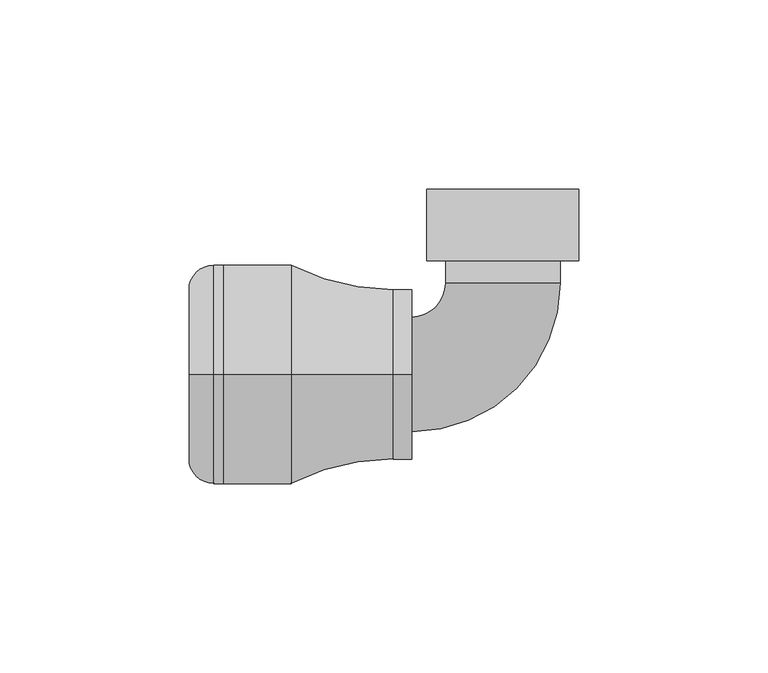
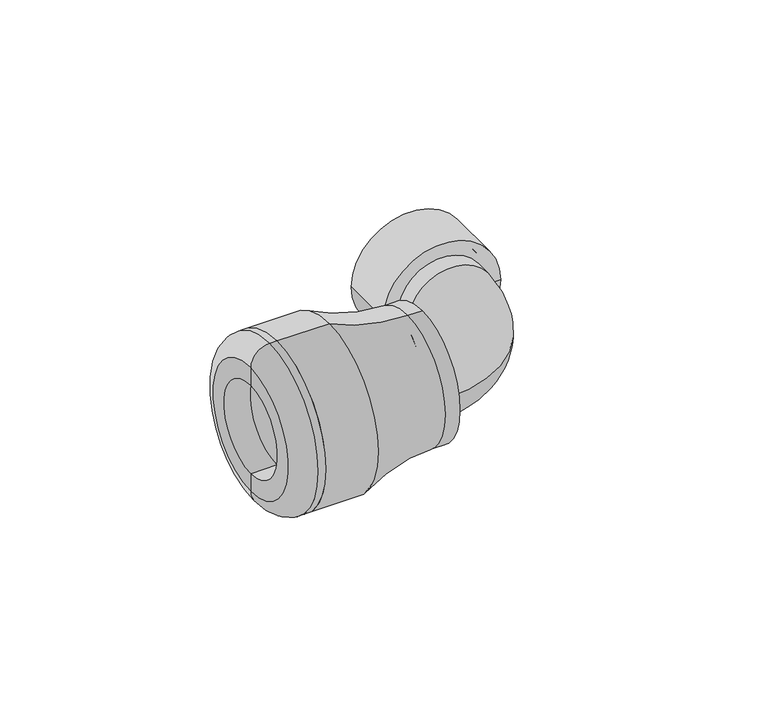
"""IFC4 building model written with IfcOpenShell, lengths in millimetres: pipe fitting geometry, Plumbing_Pipe-Fittings_Plasson_Elbow-90-with-Threaded-Female-Offtake_1015 : Plumbing_Pipe-Fittings_Plasson_Elbow-90-with-Threaded-Female-Offtake_1015."""

from ifc_helpers import new_model, si_unit, point, frame, origin, place, context, project, spatial, polyline, circle_curve, ellipse_curve, trimmed, source, transform, mapped, element, save
from ifc_brep_helpers import plane_surface, cylinder_surface, revolved_surface, advanced_brep


def pipe_fitting_24c858a7(model_context):
    return source(origin(), model_context, "Body", "AdvancedBrep", [
        advanced_brep(
        [(0.0, 49.0, -17.15), (0.0, 49.0, 17.15), (0.0, 49.0, 15.15), (0.0, 49.0, -15.15), (0.0, 33.0, -15.15), (0.0, 33.0, 15.15), (0.0, 33.0, 17.15), (0.0, 33.0, -17.15)],
        [
            (0, 1, circle_curve(frame((0.0, 49.0, 0.0), z_axis=(0.0, 1.0, 0.0), x_axis=(0.0, 0.0, 1.0)), 17.15)),
            (1, 2),
            (2, 3, circle_curve(frame((0.0, 49.0, 0.0), z_axis=(0.0, -1.0, 0.0), x_axis=(0.0, 0.0, 1.0)), 15.15)),
            (3, 0),
            (1, 0, circle_curve(frame((0.0, 49.0, 0.0), z_axis=(0.0, 1.0, 0.0), x_axis=(0.0, 0.0, 1.0)), 17.15)),
            (3, 2, circle_curve(frame((0.0, 49.0, 0.0), z_axis=(0.0, -1.0, 0.0), x_axis=(0.0, 0.0, 1.0)), 15.15)),
            (4, 5, circle_curve(frame((0.0, 33.0, 0.0), z_axis=(0.0, 1.0, 0.0), x_axis=(0.0, 0.0, 1.0)), 15.15)),
            (5, 6),
            (6, 7, circle_curve(frame((0.0, 33.0, 0.0), z_axis=(0.0, -1.0, 0.0), x_axis=(0.0, 0.0, 1.0)), 17.15)),
            (7, 4),
            (5, 4, circle_curve(frame((0.0, 33.0, 0.0), z_axis=(0.0, 1.0, 0.0), x_axis=(0.0, 0.0, 1.0)), 15.15)),
            (7, 6, circle_curve(frame((0.0, 33.0, 0.0), z_axis=(0.0, -1.0, 0.0), x_axis=(0.0, 0.0, 1.0)), 17.15)),
            (6, 1),
            (0, 7),
            (2, 5),
            (4, 3),
        ],
        [
            plane_surface(frame((0.0, 49.0, 0.0), z_axis=(0.0, 1.0, 0.0), x_axis=(0.0, 0.0, 1.0))),
            plane_surface(frame((0.0, 33.0, 0.0), z_axis=(0.0, -1.0, 0.0), x_axis=(0.0, 0.0, 1.0))),
            cylinder_surface(frame((0.0, 43.3333333, 0.0), z_axis=(0.0, -1.0, 0.0), x_axis=(0.0, 0.0, 1.0)), 17.15),
            revolved_surface(polyline([(0.0, 33.0, 15.15), (0.0, 49.0, 15.15)]), (0.0, 43.3333333, 0.0), (0.0, -1.0, 0.0)),
        ],
        [
            (0, [[1, 2, 3, 4]]),
            (0, [[5, -4, 6, -2]]),
            (1, [[7, 8, 9, 10]]),
            (1, [[11, -10, 12, -8]]),
            (2, [[-9, 13, -1, 14]]),
            (2, [[-12, -14, -5, -13]]),
            (3, [[-3, 15, -7, 16]]),
            (3, [[-6, -16, -11, -15]]),
        ],
    ),
        advanced_brep(
        [(-24.1, -15.15, 0.0), (-24.1, 15.15, 0.0), (15.15, 24.1, 0.0), (-15.15, 24.1, 0.0)],
        [
            (0, 1, circle_curve(frame((-24.1, 0.0, 0.0), z_axis=(-1.0, 0.0, 0.0), x_axis=(0.0, 1.0, 0.0)), 15.15)),
            (1, 0, circle_curve(frame((-24.1, 0.0, 0.0), z_axis=(-1.0, 0.0, 0.0), x_axis=(0.0, 1.0, 0.0)), 15.15)),
            (2, 3, circle_curve(frame((0.0, 24.1, 0.0), z_axis=(0.0, 1.0, 0.0), x_axis=(-1.0, 0.0, 0.0)), 15.15)),
            (3, 2, circle_curve(frame((0.0, 24.1, 0.0), z_axis=(0.0, 1.0, 0.0), x_axis=(-1.0, 0.0, 0.0)), 15.15)),
            (3, 1, circle_curve(frame((-24.1, 24.1, 0.0), z_axis=(0.0, 0.0, -1.0), x_axis=(0.0, -1.0, 0.0)), 8.95)),
            (0, 2, circle_curve(frame((-24.1, 24.1, 0.0), z_axis=(0.0, 0.0, 1.0), x_axis=(0.0, -1.0, 0.0)), 39.25)),
        ],
        [
            plane_surface(frame((-24.1, 0.0, 0.0), z_axis=(-1.0, 0.0, 0.0), x_axis=(0.0, 0.0, 1.0))),
            plane_surface(frame((0.0, 24.1, 0.0), z_axis=(0.0, 1.0, 0.0), x_axis=(0.0, 0.0, 1.0))),
            revolved_surface(trimmed(ellipse_curve(frame((-24.1, 0.0, 0.0), z_axis=(-1.0, 0.0, 0.0), x_axis=(0.0, 1.0, 0.0)), 15.15, 15.15), [point((-24.1, -15.15, 0.0))], [point((-24.1, 15.15, 0.0))], True, "CARTESIAN"), (-24.1, 24.1, 0.0), (0.0, 0.0, 1.0)),
            revolved_surface(trimmed(ellipse_curve(frame((-24.1, 0.0, 0.0), z_axis=(-1.0, 0.0, 0.0), x_axis=(0.0, 1.0, 0.0)), 15.15, 15.15), [point((-24.1, 15.15, 0.0))], [point((-24.1, -15.15, 0.0))], True, "CARTESIAN"), (-24.1, 24.1, 0.0), (0.0, 0.0, 1.0)),
        ],
        [
            (0, [[1, 2]]),
            (1, [[3, 4]]),
            (2, [[5, -1, 6, -4]]),
            (3, [[-6, -2, -5, -3]]),
        ],
    ),
        advanced_brep(
        [(20.15, 30.0, 0.0), (-20.15, 30.0, 0.0), (-20.15, 49.0, 0.0), (20.15, 49.0, 0.0), (17.15, 33.0, 0.0), (-17.15, 33.0, 0.0), (0.0, 33.0, 0.0), (0.0, 24.1, 0.0), (-15.15, 24.1, 0.0), (15.15, 24.1, 0.0), (-15.15, 30.0, 0.0), (15.15, 30.0, 0.0), (17.15, 49.0, 0.0), (-17.15, 49.0, 0.0)],
        [
            (0, 1, circle_curve(frame((0.0, 30.0, 0.0), z_axis=(0.0, 1.0, 0.0), x_axis=(-1.0, 0.0, 0.0)), 20.15)),
            (1, 2),
            (2, 3, circle_curve(frame((0.0, 49.0, 0.0), z_axis=(0.0, -1.0, 0.0), x_axis=(-1.0, 0.0, 0.0)), 20.15)),
            (3, 0),
            (1, 0, circle_curve(frame((0.0, 30.0, 0.0), z_axis=(0.0, 1.0, 0.0), x_axis=(-1.0, 0.0, 0.0)), 20.15)),
            (3, 2, circle_curve(frame((0.0, 49.0, 0.0), z_axis=(0.0, -1.0, 0.0), x_axis=(-1.0, 0.0, 0.0)), 20.15)),
            (4, 5, circle_curve(frame((0.0, 33.0, 0.0), z_axis=(0.0, 1.0, 0.0), x_axis=(-1.0, 0.0, 0.0)), 17.15)),
            (5, 6),
            (6, 4),
            (5, 4, circle_curve(frame((0.0, 33.0, 0.0), z_axis=(0.0, 1.0, 0.0), x_axis=(-1.0, 0.0, 0.0)), 17.15)),
            (7, 8),
            (8, 9, circle_curve(frame((0.0, 24.1, 0.0), z_axis=(0.0, -1.0, 0.0), x_axis=(-1.0, 0.0, 0.0)), 15.15)),
            (9, 7),
            (9, 8, circle_curve(frame((0.0, 24.1, 0.0), z_axis=(0.0, -1.0, 0.0), x_axis=(-1.0, 0.0, 0.0)), 15.15)),
            (8, 10),
            (10, 11, circle_curve(frame((0.0, 30.0, 0.0), z_axis=(0.0, -1.0, 0.0), x_axis=(-1.0, 0.0, 0.0)), 15.15)),
            (11, 9),
            (11, 10, circle_curve(frame((0.0, 30.0, 0.0), z_axis=(0.0, -1.0, 0.0), x_axis=(-1.0, 0.0, 0.0)), 15.15)),
            (10, 1),
            (0, 11),
            (12, 13, circle_curve(frame((0.0, 49.0, 0.0), z_axis=(0.0, 1.0, 0.0), x_axis=(-1.0, 0.0, 0.0)), 17.15)),
            (13, 5),
            (4, 12),
            (13, 12, circle_curve(frame((0.0, 49.0, 0.0), z_axis=(0.0, 1.0, 0.0), x_axis=(-1.0, 0.0, 0.0)), 17.15)),
            (2, 13),
            (12, 3),
        ],
        [
            cylinder_surface(frame((0.0, 31.25, 0.0), z_axis=(0.0, -1.0, 0.0), x_axis=(-1.0, 0.0, 0.0)), 20.15),
            plane_surface(frame((0.0, 33.0, 0.0), z_axis=(0.0, 1.0, 0.0), x_axis=(-1.0, 0.0, 0.0))),
            plane_surface(frame((0.0, 24.1, 0.0), z_axis=(0.0, -1.0, 0.0), x_axis=(-1.0, 0.0, 0.0))),
            cylinder_surface(frame((0.0, 31.25, 0.0), z_axis=(0.0, -1.0, 0.0), x_axis=(-1.0, 0.0, 0.0)), 15.15),
            plane_surface(frame((0.0, 30.0, 0.0), z_axis=(0.0, -1.0, 0.0), x_axis=(-1.0, 0.0, 0.0))),
            revolved_surface(polyline([(-17.15, 33.0, 0.0), (-17.15, 49.0, 0.0)]), (0.0, 31.25, 0.0), (0.0, -1.0, 0.0)),
            plane_surface(frame((0.0, 49.0, 0.0), z_axis=(0.0, 1.0, 0.0), x_axis=(-1.0, 0.0, 0.0))),
        ],
        [
            (0, [[1, 2, 3, 4]]),
            (0, [[5, -4, 6, -2]]),
            (1, [[7, 8, 9]]),
            (1, [[10, -9, -8]]),
            (2, [[11, 12, 13]]),
            (2, [[-13, 14, -11]]),
            (3, [[-12, 15, 16, 17]]),
            (3, [[-14, -17, 18, -15]]),
            (4, [[-16, 19, -1, 20]]),
            (4, [[-18, -20, -5, -19]]),
            (5, [[21, 22, -7, 23]]),
            (5, [[24, -23, -10, -22]]),
            (6, [[-3, 25, -21, 26]]),
            (6, [[-6, -26, -24, -25]]),
        ],
    ),
        advanced_brep(
        [(-74.0, 0.0, -29.0), (-74.0, 0.0, 29.0), (-74.0, 0.0, 16.0), (-74.0, 0.0, -16.0), (-76.5, 0.0, -29.0), (-76.5, 0.0, 29.0), (-83.0, 0.0, -22.5), (-83.0, 0.0, 22.5), (-83.0, 0.0, -16.0), (-83.0, 0.0, 16.0)],
        [
            (0, 1, circle_curve(frame((-74.0, 0.0, 0.0), z_axis=(1.0, 0.0, 0.0), x_axis=(0.0, 0.0, 1.0)), 29.0)),
            (1, 2),
            (2, 3, circle_curve(frame((-74.0, 0.0, 0.0), z_axis=(-1.0, 0.0, 0.0), x_axis=(0.0, 0.0, 1.0)), 16.0)),
            (3, 0),
            (1, 0, circle_curve(frame((-74.0, 0.0, 0.0), z_axis=(1.0, 0.0, 0.0), x_axis=(0.0, 0.0, 1.0)), 29.0)),
            (3, 2, circle_curve(frame((-74.0, 0.0, 0.0), z_axis=(-1.0, 0.0, 0.0), x_axis=(0.0, 0.0, 1.0)), 16.0)),
            (4, 5, circle_curve(frame((-76.5, 0.0, 0.0), z_axis=(1.0, 0.0, 0.0), x_axis=(0.0, 0.0, 1.0)), 29.0)),
            (5, 1),
            (0, 4),
            (5, 4, circle_curve(frame((-76.5, 0.0, 0.0), z_axis=(1.0, 0.0, 0.0), x_axis=(0.0, 0.0, 1.0)), 29.0)),
            (6, 7, circle_curve(frame((-83.0, 0.0, 0.0), z_axis=(1.0, 0.0, 0.0), x_axis=(0.0, 0.0, 1.0)), 22.5)),
            (7, 5, circle_curve(frame((-76.5, 0.0, 22.5), z_axis=(0.0, 1.0, 0.0), x_axis=(1.0, 0.0, 0.0)), 6.5)),
            (4, 6, circle_curve(frame((-76.5, 0.0, -22.5), z_axis=(0.0, 1.0, 0.0), x_axis=(1.0, 0.0, 0.0)), 6.5)),
            (7, 6, circle_curve(frame((-83.0, 0.0, 0.0), z_axis=(1.0, 0.0, 0.0), x_axis=(0.0, 0.0, 1.0)), 22.5)),
            (8, 9, circle_curve(frame((-83.0, 0.0, 0.0), z_axis=(1.0, 0.0, 0.0), x_axis=(0.0, 0.0, 1.0)), 16.0)),
            (9, 7),
            (6, 8),
            (9, 8, circle_curve(frame((-83.0, 0.0, 0.0), z_axis=(1.0, 0.0, 0.0), x_axis=(0.0, 0.0, 1.0)), 16.0)),
            (2, 9),
            (8, 3),
        ],
        [
            plane_surface(frame((-74.0, 0.0, 0.0), z_axis=(1.0, 0.0, 0.0), x_axis=(0.0, 0.0, 1.0))),
            cylinder_surface(frame((-88.0, 0.0, 0.0), z_axis=(-1.0, 0.0, 0.0), x_axis=(0.0, 0.0, 1.0)), 29.0),
            revolved_surface(trimmed(ellipse_curve(frame((-76.5, 0.0, 22.5), z_axis=(0.0, -1.0, 0.0), x_axis=(1.0, 0.0, 0.0)), 6.5, 6.5), [point((-76.5, 0.0, 29.0))], [point((-83.0, 0.0, 22.5))], True, "CARTESIAN"), (-88.0, 0.0, 0.0), (-1.0, 0.0, 0.0)),
            plane_surface(frame((-83.0, 0.0, 0.0), z_axis=(-1.0, 0.0, 0.0), x_axis=(0.0, 0.0, 1.0))),
            revolved_surface(polyline([(-83.0, 0.0, 16.0), (-74.0, 0.0, 16.0)]), (-88.0, 0.0, 0.0), (-1.0, 0.0, 0.0)),
        ],
        [
            (0, [[1, 2, 3, 4]]),
            (0, [[5, -4, 6, -2]]),
            (1, [[7, 8, -1, 9]]),
            (1, [[10, -9, -5, -8]]),
            (2, [[11, 12, -7, 13]]),
            (2, [[14, -13, -10, -12]]),
            (3, [[15, 16, -11, 17]]),
            (3, [[18, -17, -14, -16]]),
            (4, [[-3, 19, -15, 20]]),
            (4, [[-6, -20, -18, -19]]),
        ],
    ),
        advanced_brep(
        [(-74.0, 0.0, -16.0), (-74.0, 0.0, 16.0), (-74.0, 0.0, 29.0), (-74.0, 0.0, -29.0), (-29.0, 0.0, -16.0), (-29.0, 0.0, 16.0), (-29.0, 0.0, 0.0), (-56.0, 0.0, 29.0), (-56.0, 0.0, -29.0), (-24.1, 0.0, -22.5), (-24.1, 0.0, 22.5), (-24.1, 0.0, 0.0), (-29.0, 0.0, -22.5), (-29.0, 0.0, 22.5)],
        [
            (0, 1, circle_curve(frame((-74.0, 0.0, 0.0), z_axis=(1.0, 0.0, 0.0), x_axis=(0.0, 0.0, 1.0)), 16.0)),
            (1, 2),
            (2, 3, circle_curve(frame((-74.0, 0.0, 0.0), z_axis=(-1.0, 0.0, 0.0), x_axis=(0.0, 0.0, 1.0)), 29.0)),
            (3, 0),
            (1, 0, circle_curve(frame((-74.0, 0.0, 0.0), z_axis=(1.0, 0.0, 0.0), x_axis=(0.0, 0.0, 1.0)), 16.0)),
            (3, 2, circle_curve(frame((-74.0, 0.0, 0.0), z_axis=(-1.0, 0.0, 0.0), x_axis=(0.0, 0.0, 1.0)), 29.0)),
            (4, 5, circle_curve(frame((-29.0, 0.0, 0.0), z_axis=(1.0, 0.0, 0.0), x_axis=(0.0, 0.0, 1.0)), 16.0)),
            (5, 1),
            (0, 4),
            (5, 4, circle_curve(frame((-29.0, 0.0, 0.0), z_axis=(1.0, 0.0, 0.0), x_axis=(0.0, 0.0, 1.0)), 16.0)),
            (6, 5),
            (4, 6),
            (2, 7),
            (7, 8, circle_curve(frame((-56.0, 0.0, 0.0), z_axis=(-1.0, 0.0, 0.0), x_axis=(0.0, 0.0, 1.0)), 29.0)),
            (8, 3),
            (8, 7, circle_curve(frame((-56.0, 0.0, 0.0), z_axis=(-1.0, 0.0, 0.0), x_axis=(0.0, 0.0, 1.0)), 29.0)),
            (9, 10, circle_curve(frame((-24.1, 0.0, 0.0), z_axis=(1.0, 0.0, 0.0), x_axis=(0.0, 0.0, 1.0)), 22.5)),
            (10, 11),
            (11, 9),
            (10, 9, circle_curve(frame((-24.1, 0.0, 0.0), z_axis=(1.0, 0.0, 0.0), x_axis=(0.0, 0.0, 1.0)), 22.5)),
            (12, 13, circle_curve(frame((-29.0, 0.0, 0.0), z_axis=(1.0, 0.0, 0.0), x_axis=(0.0, 0.0, 1.0)), 22.5)),
            (13, 10),
            (9, 12),
            (13, 12, circle_curve(frame((-29.0, 0.0, 0.0), z_axis=(1.0, 0.0, 0.0), x_axis=(0.0, 0.0, 1.0)), 22.5)),
            (7, 13, circle_curve(frame((-29.0, 0.0, 81.8269231), z_axis=(0.0, -1.0, 0.0), x_axis=(1.0, 0.0, 0.0)), 59.3269231)),
            (12, 8, circle_curve(frame((-29.0, 0.0, -81.8269231), z_axis=(0.0, -1.0, 0.0), x_axis=(1.0, 0.0, 0.0)), 59.3269231)),
        ],
        [
            plane_surface(frame((-74.0, 0.0, 0.0), z_axis=(-1.0, 0.0, 0.0), x_axis=(0.0, 0.0, 1.0))),
            revolved_surface(polyline([(-74.0, 0.0, 16.0), (-29.0, 0.0, 16.0)]), (-74.0, 0.0, 0.0), (-1.0, 0.0, 0.0)),
            plane_surface(frame((-29.0, 0.0, 0.0), z_axis=(-1.0, 0.0, 0.0), x_axis=(0.0, 0.0, 1.0))),
            cylinder_surface(frame((-74.0, 0.0, 0.0), z_axis=(-1.0, 0.0, 0.0), x_axis=(0.0, 0.0, 1.0)), 29.0),
            plane_surface(frame((-24.1, 0.0, 0.0), z_axis=(1.0, 0.0, 0.0), x_axis=(0.0, 0.0, 1.0))),
            cylinder_surface(frame((-74.0, 0.0, 0.0), z_axis=(-1.0, 0.0, 0.0), x_axis=(0.0, 0.0, 1.0)), 22.5),
            revolved_surface(trimmed(ellipse_curve(frame((-29.0, 0.0, 81.8269231), z_axis=(0.0, 1.0, 0.0), x_axis=(1.0, 0.0, 0.0)), 59.3269231, 59.3269231), [point((-29.0, 0.0, 22.5))], [point((-56.0, 0.0, 29.0))], True, "CARTESIAN"), (-74.0, 0.0, 0.0), (-1.0, 0.0, 0.0)),
        ],
        [
            (0, [[1, 2, 3, 4]]),
            (0, [[5, -4, 6, -2]]),
            (1, [[7, 8, -1, 9]]),
            (1, [[10, -9, -5, -8]]),
            (2, [[11, -7, 12]]),
            (2, [[-12, -10, -11]]),
            (3, [[-3, 13, 14, 15]]),
            (3, [[-6, -15, 16, -13]]),
            (4, [[17, 18, 19]]),
            (4, [[20, -19, -18]]),
            (5, [[21, 22, -17, 23]]),
            (5, [[24, -23, -20, -22]]),
            (6, [[-14, 25, -21, 26]]),
            (6, [[-16, -26, -24, -25]]),
        ],
    ),
    ])


if __name__ == "__main__":
    model = new_model("IFC4")
    model_context = context("Model", 3, world=origin())
    ifc_project = project(units=[si_unit("LENGTHUNIT", "METRE", prefix="MILLI")], contexts=[model_context])
    site = spatial("IfcSite", under=ifc_project)
    building = spatial("IfcBuilding", under=site)
    placement = place(None, origin())
    pipe_fitting_shape = pipe_fitting_24c858a7(model_context)
    element("IfcPipeFitting", 1, ObjectType="Plumbing_Pipe-Fittings_Plasson_Elbow-90-with-Threaded-Female-Offtake_1015 : Plumbing_Pipe-Fittings_Plasson_Elbow-90-with-Threaded-Female-Offtake_1015", at=placement, inside=building, context=model_context, shape_type="MappedRepresentation", body=[
        mapped(pipe_fitting_shape, transform((0.0, 0.0, 0.0), x_axis=(1.0, 0.0, 0.0), y_axis=(0.0, 1.0, 0.0), z_axis=(0.0, 0.0, 1.0))),
    ])
    save(model, "model.ifc")
